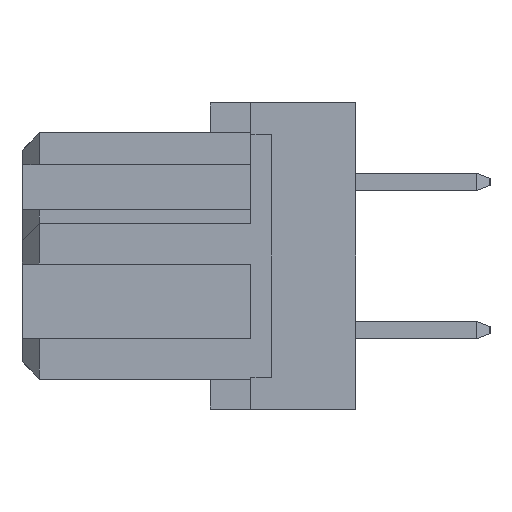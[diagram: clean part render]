
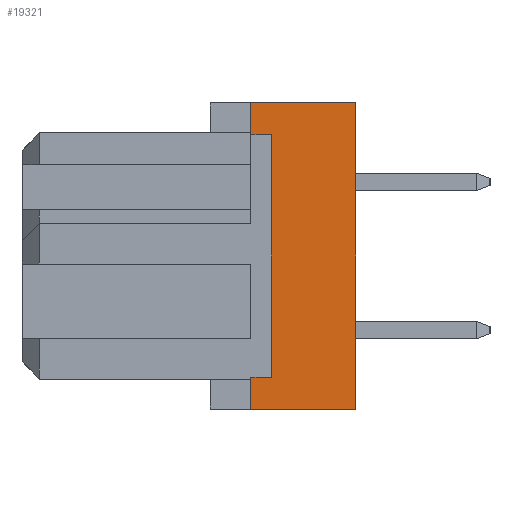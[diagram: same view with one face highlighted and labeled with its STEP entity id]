
A CAD part, left-side view. The second image highlights one B-rep face of the part: STEP entity #19321.
In plain terms, the highlighted planar face has unit normal (-1, 0, 0).
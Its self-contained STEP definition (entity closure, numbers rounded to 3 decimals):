
#17434 = VERTEX_POINT ( 'NONE', #32268 ) ;
#17469 = EDGE_CURVE ( 'NONE', #17479, #17434, #32258, .T. ) ;
#17479 = VERTEX_POINT ( 'NONE', #32254 ) ;
#18855 = EDGE_CURVE ( 'NONE', #18969, #17434, #35606, .T. ) ;
#18969 = VERTEX_POINT ( 'NONE', #35548 ) ;
#19318 = ORIENTED_EDGE ( 'NONE', *, *, #19517, .T. ) ;
#19319 = VERTEX_POINT ( 'NONE', #36198 ) ;
#19320 = VERTEX_POINT ( 'NONE', #36173 ) ;
#19321 = ADVANCED_FACE ( 'NONE', ( #36172 ), #36199, .F. ) ;
#19428 = ORIENTED_EDGE ( 'NONE', *, *, #19433, .T. ) ;
#19433 = EDGE_CURVE ( 'NONE', #19320, #17479, #36388, .T. ) ;
#19517 = EDGE_CURVE ( 'NONE', #19319, #19320, #36582, .T. ) ;
#19523 = ORIENTED_EDGE ( 'NONE', *, *, #19737, .T. ) ;
#19524 = ORIENTED_EDGE ( 'NONE', *, *, #19668, .F. ) ;
#19525 = EDGE_CURVE ( 'NONE', #19670, #19603, #36552, .T. ) ;
#19528 = VERTEX_POINT ( 'NONE', #36550 ) ;
#19556 = EDGE_LOOP ( 'NONE', ( #19318, #19428, #19736, #19772, #19523, #19524, #19596, #19711 ) ) ;
#19596 = ORIENTED_EDGE ( 'NONE', *, *, #19525, .T. ) ;
#19597 = EDGE_CURVE ( 'NONE', #19603, #19319, #36646, .T. ) ;
#19603 = VERTEX_POINT ( 'NONE', #36730 ) ;
#19668 = EDGE_CURVE ( 'NONE', #19670, #19528, #36771, .T. ) ;
#19670 = VERTEX_POINT ( 'NONE', #36940 ) ;
#19711 = ORIENTED_EDGE ( 'NONE', *, *, #19597, .T. ) ;
#19736 = ORIENTED_EDGE ( 'NONE', *, *, #17469, .T. ) ;
#19737 = EDGE_CURVE ( 'NONE', #18969, #19528, #36789, .T. ) ;
#19772 = ORIENTED_EDGE ( 'NONE', *, *, #18855, .F. ) ;
#32254 = CARTESIAN_POINT ( 'NONE',  ( -28.83, 0.408, -5.891 ) ) ;
#32255 = DIRECTION ( 'NONE',  ( 0., 0., 1. ) ) ;
#32256 = VECTOR ( 'NONE', #32255, 1000. ) ;
#32257 = CARTESIAN_POINT ( 'NONE',  ( -28.83, 0.408, -5.891 ) ) ;
#32258 = LINE ( 'NONE', #32257, #32256 ) ;
#32268 = CARTESIAN_POINT ( 'NONE',  ( -28.83, 0.408, 4.609 ) ) ;
#35548 = CARTESIAN_POINT ( 'NONE',  ( -28.83, 4.008, 4.609 ) ) ;
#35603 = DIRECTION ( 'NONE',  ( 0., -1., 0. ) ) ;
#35604 = VECTOR ( 'NONE', #35603, 1000. ) ;
#35605 = CARTESIAN_POINT ( 'NONE',  ( -28.83, 5.408, 4.609 ) ) ;
#35606 = LINE ( 'NONE', #35605, #35604 ) ;
#36108 = DIRECTION ( 'NONE',  ( 0., 0., -1. ) ) ;
#36109 = DIRECTION ( 'NONE',  ( 1., 0., 0. ) ) ;
#36172 = FACE_OUTER_BOUND ( 'NONE', #19556, .T. ) ;
#36173 = CARTESIAN_POINT ( 'NONE',  ( -28.83, 4.008, -5.891 ) ) ;
#36198 = CARTESIAN_POINT ( 'NONE',  ( -28.83, 4.008, -4.791 ) ) ;
#36199 = PLANE ( 'NONE',  #36232 ) ;
#36232 = AXIS2_PLACEMENT_3D ( 'NONE', #36283, #36109, #36108 ) ;
#36283 = CARTESIAN_POINT ( 'NONE',  ( -28.83, 5.408, -5.891 ) ) ;
#36386 = VECTOR ( 'NONE', #36460, 1000. ) ;
#36387 = CARTESIAN_POINT ( 'NONE',  ( -28.83, 5.408, -5.891 ) ) ;
#36388 = LINE ( 'NONE', #36387, #36386 ) ;
#36460 = DIRECTION ( 'NONE',  ( 0., -1., 0. ) ) ;
#36550 = CARTESIAN_POINT ( 'NONE',  ( -28.83, 4.008, 3.509 ) ) ;
#36551 = CARTESIAN_POINT ( 'NONE',  ( -28.83, 3.308, -4.791 ) ) ;
#36552 = LINE ( 'NONE', #36551, #36592 ) ;
#36580 = VECTOR ( 'NONE', #36590, 1000. ) ;
#36581 = CARTESIAN_POINT ( 'NONE',  ( -28.83, 4.008, -5.891 ) ) ;
#36582 = LINE ( 'NONE', #36581, #36580 ) ;
#36590 = DIRECTION ( 'NONE',  ( 0., 0., -1. ) ) ;
#36591 = DIRECTION ( 'NONE',  ( 0., 0., -1. ) ) ;
#36592 = VECTOR ( 'NONE', #36591, 1000. ) ;
#36614 = DIRECTION ( 'NONE',  ( 0., 1., 0. ) ) ;
#36615 = VECTOR ( 'NONE', #36614, 1000. ) ;
#36616 = CARTESIAN_POINT ( 'NONE',  ( -28.83, -9.44, -4.791 ) ) ;
#36646 = LINE ( 'NONE', #36616, #36615 ) ;
#36730 = CARTESIAN_POINT ( 'NONE',  ( -28.83, 3.308, -4.791 ) ) ;
#36771 = LINE ( 'NONE', #36859, #36890 ) ;
#36785 = CARTESIAN_POINT ( 'NONE',  ( -28.83, 4.008, 3.509 ) ) ;
#36789 = LINE ( 'NONE', #36785, #36903 ) ;
#36859 = CARTESIAN_POINT ( 'NONE',  ( -28.83, -9.44, 3.509 ) ) ;
#36890 = VECTOR ( 'NONE', #36898, 1000. ) ;
#36898 = DIRECTION ( 'NONE',  ( 0., 1., 0. ) ) ;
#36902 = DIRECTION ( 'NONE',  ( 0., 0., -1. ) ) ;
#36903 = VECTOR ( 'NONE', #36902, 1000. ) ;
#36940 = CARTESIAN_POINT ( 'NONE',  ( -28.83, 3.308, 3.509 ) ) ;
